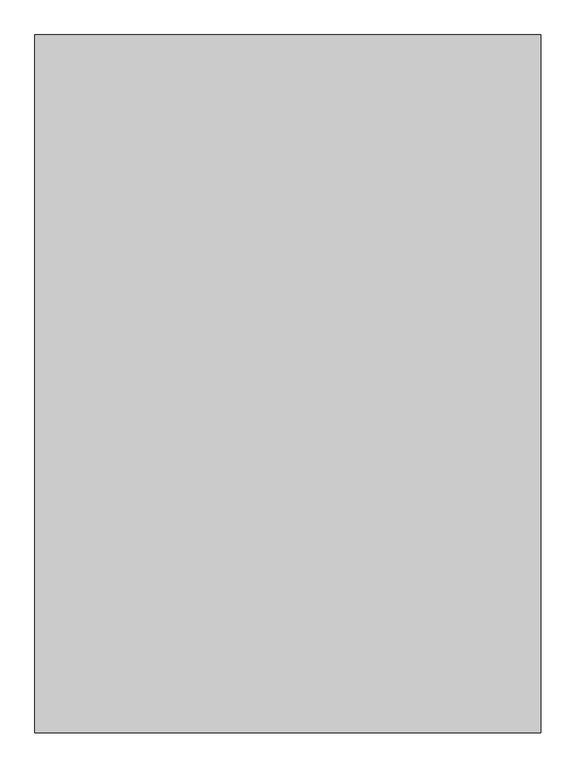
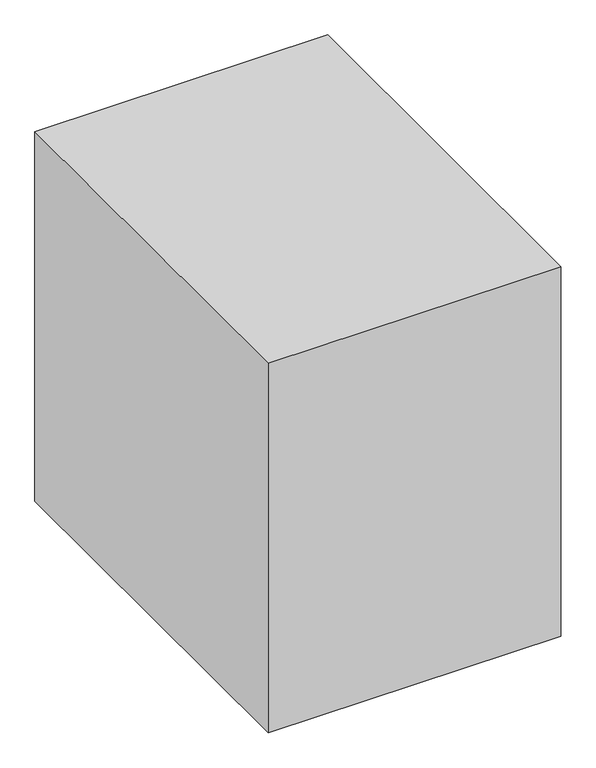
"""IFC4 building model written with IfcOpenShell, lengths in millimetres: unitary equipment geometry, AIC_Boiler_Nesta_FS_120-250 : Nesta 200 FS."""

from ifc_helpers import new_model, si_unit, point, frame, frame_2d, origin, origin_with_axes, place, context, project, spatial, polyline, circle_curve, trimmed, segment, composite_curve, outline, extrude, source, transform, mapped, element, save
from ifc_brep_helpers import plane_surface, cylinder_surface, advanced_brep


def unitary_equipment_072e29ba(model_context):
    return source(origin(), model_context, "Body", "SolidModel", [
        extrude(outline(composite_curve([segment(trimmed(circle_curve(frame_2d((600.0, 284.0)), 11.6), [point((600.0, 295.6))], [point((600.0, 272.4))], False, "CARTESIAN"), True, "CONTINUOUS"), segment(trimmed(circle_curve(frame_2d((600.0, 284.0)), 11.6), [point((600.0, 272.4))], [point((600.0, 295.6))], False, "CARTESIAN"), True, "CONTINUOUS")], self_intersect=False)), frame((0.0, 315.5, 0.0), z_axis=(0.0, 1.0, 0.0), x_axis=(0.0, 0.0, 1.0)), (0.0, 0.0, 1.0), 10.0),
        extrude(outline(composite_curve([segment(trimmed(circle_curve(frame_2d((-10.0, 432.5)), 90.0), [point((-100.0, 432.5))], [point((80.0, 432.5))], False, "CARTESIAN"), True, "CONTINUOUS"), segment(trimmed(circle_curve(frame_2d((-10.0, 432.5)), 90.0), [point((80.0, 432.5))], [point((-100.0, 432.5))], False, "CARTESIAN"), True, "CONTINUOUS")], self_intersect=False)), frame((0.0, 0.0, 302.0), z_axis=(0.0, 0.0, 1.0), x_axis=(1.0, 0.0, 0.0)), (0.0, 0.0, 1.0), 98.0),
        extrude(outline(composite_curve([segment(polyline([(-100.0, 315.5), (-100.0, 432.5)]), True, "CONTINUOUS"), segment(trimmed(circle_curve(frame_2d((-10.0, 432.5)), 90.0), [point((-100.0, 432.5))], [point((80.0, 432.5))], False, "CARTESIAN"), True, "CONTINUOUS"), segment(polyline([(80.0, 432.5), (80.0, 315.5), (-100.0, 315.5)]), True, "CONTINUOUS")], self_intersect=False)), frame((0.0, 0.0, 232.0), z_axis=(0.0, 0.0, 1.0), x_axis=(1.0, 0.0, 0.0)), (0.0, 0.0, 1.0), 70.0),
        extrude(outline(composite_curve([segment(trimmed(circle_curve(frame_2d((141.0, 196.0)), 12.5), [point((141.0, 208.5))], [point((141.0, 183.5))], False, "CARTESIAN"), True, "CONTINUOUS"), segment(trimmed(circle_curve(frame_2d((141.0, 196.0)), 12.5), [point((141.0, 183.5))], [point((141.0, 208.5))], False, "CARTESIAN"), True, "CONTINUOUS")], self_intersect=False)), frame((0.0, 315.5, 0.0), z_axis=(0.0, 1.0, 0.0), x_axis=(0.0, 0.0, 1.0)), (0.0, 0.0, 1.0), 13.0),
        extrude(outline(composite_curve([segment(trimmed(circle_curve(frame_2d((361.0, 173.0)), 38.05), [point((361.0, 211.05))], [point((361.0, 134.95))], False, "CARTESIAN"), True, "CONTINUOUS"), segment(trimmed(circle_curve(frame_2d((361.0, 173.0)), 38.05), [point((361.0, 134.95))], [point((361.0, 211.05))], False, "CARTESIAN"), True, "CONTINUOUS")], self_intersect=False)), frame((0.0, 315.5, 0.0), z_axis=(0.0, 1.0, 0.0), x_axis=(0.0, 0.0, 1.0)), (0.0, 0.0, 1.0), 122.0),
        extrude(outline(composite_curve([segment(trimmed(circle_curve(frame_2d((1098.0, -210.0)), 38.05), [point((1098.0, -171.95))], [point((1098.0, -248.05))], False, "CARTESIAN"), True, "CONTINUOUS"), segment(trimmed(circle_curve(frame_2d((1098.0, -210.0)), 38.05), [point((1098.0, -248.05))], [point((1098.0, -171.95))], False, "CARTESIAN"), True, "CONTINUOUS")], self_intersect=False)), frame((0.0, 315.5, 0.0), z_axis=(0.0, 1.0, 0.0), x_axis=(0.0, 0.0, 1.0)), (0.0, 0.0, 1.0), 122.0),
        extrude(outline(composite_curve([segment(trimmed(circle_curve(frame_2d((1308.9643556, -155.193117)), 16.85), [point((1308.9643556, -138.343117))], [point((1308.9643556, -172.043117))], False, "CARTESIAN"), True, "CONTINUOUS"), segment(trimmed(circle_curve(frame_2d((1308.9643556, -155.193117)), 16.85), [point((1308.9643556, -172.043117))], [point((1308.9643556, -138.343117))], False, "CARTESIAN"), True, "CONTINUOUS")], self_intersect=False)), frame((0.0, 315.5, 0.0), z_axis=(0.0, 1.0, 0.0), x_axis=(0.0, 0.0, 1.0)), (0.0, 0.0, 1.0), 89.0),
        extrude(outline(composite_curve([segment(trimmed(circle_curve(frame_2d((1324.0, 157.0)), 62.5), [point((1324.0, 219.5))], [point((1324.0, 94.5))], False, "CARTESIAN"), True, "CONTINUOUS"), segment(trimmed(circle_curve(frame_2d((1324.0, 157.0)), 62.5), [point((1324.0, 94.5))], [point((1324.0, 219.5))], False, "CARTESIAN"), True, "CONTINUOUS")], self_intersect=False)), frame((0.0, 315.5, 0.0), z_axis=(0.0, 1.0, 0.0), x_axis=(0.0, 0.0, 1.0)), (0.0, 0.0, 1.0), 40.0),
        extrude(outline(polyline([(-0.574259, 15.3863839), (16.0151184, 21.4244235), (16.0151184, -21.4244235), (-0.574259, -15.3863839), (-0.574259, 15.3863839)])), frame((0.0, -239.0, 0.0), z_axis=(0.0, 1.0, 0.0), x_axis=(0.0, 0.0, 1.0)), (0.0, 0.0, 1.0), 478.0),
        extrude(outline(polyline([(-280.0, 239.0), (-280.0, -239.0), (-311.0, -239.0), (-311.0, 239.0), (-280.0, 239.0)])), frame((0.0, 0.0, 3.0), z_axis=(0.0, 0.0, 1.0), x_axis=(1.0, 0.0, 0.0)), (0.0, 0.0, 1.0), 13.0),
        extrude(outline(polyline([(280.0, 239.0), (311.0, 239.0), (311.0, -239.0), (280.0, -239.0), (280.0, 239.0)])), frame((0.0, 0.0, 3.0), z_axis=(0.0, 0.0, 1.0), x_axis=(1.0, 0.0, 0.0)), (0.0, 0.0, 1.0), 13.0),
        extrude(outline(polyline([(-280.0, 280.0), (-280.0, -288.758383), (-311.0, -288.758383), (-311.0, 280.0), (-280.0, 280.0)])), origin_with_axes(), (0.0, 0.0, 1.0), 3.0),
        extrude(outline(polyline([(280.0, 280.0), (311.0, 280.0), (311.0, -288.758383), (280.0, -288.758383), (280.0, 280.0)])), origin_with_axes(), (0.0, 0.0, 1.0), 3.0),
        extrude(outline(composite_curve([segment(trimmed(circle_curve(frame_2d((1248.0, 0.0)), 15.0), [point((1248.0, -15.0))], [point((1248.0, 15.0))], False, "CARTESIAN"), True, "CONTINUOUS"), segment(trimmed(circle_curve(frame_2d((1248.0, 0.0)), 15.0), [point((1248.0, 15.0))], [point((1248.0, -15.0))], False, "CARTESIAN"), True, "CONTINUOUS")], self_intersect=False)), frame((0.0, -318.0, 0.0), z_axis=(0.0, 1.0, 0.0), x_axis=(0.0, 0.0, 1.0)), (0.0, 0.0, 1.0), 2.5),
        advanced_brep(
        [(-324.0, 290.5, 1524.0), (-324.0, -286.5, 1524.0), (324.0, -286.5, 1524.0), (324.0, 290.5, 1524.0), (324.0, 286.5, 16.0), (324.0, -286.5, 16.0), (-324.0, -286.5, 16.0), (-324.0, 286.5, 16.0), (-324.0, 315.5, 1495.2771868), (-324.0, 315.5, 1255.0), (-324.0, -315.5, 1255.0), (-324.0, -315.5, 1495.0), (-324.0, -315.5, 45.0), (-324.0, -315.5, 153.0), (-324.0, -310.0, 153.0), (-324.0, -310.0, 158.0), (-324.0, -315.5, 158.0), (-324.0, -315.5, 1250.0), (-324.0, 315.5, 1250.0), (-324.0, 315.5, 45.0), (324.0, -315.5, 45.0), (324.0, -315.5, 153.0), (324.0, -315.5, 1495.0), (-77.0, -315.5, 1255.0), (-77.0, -315.5, 1330.0), (77.0, -315.5, 1330.0), (77.0, -315.5, 1255.0), (324.0, -315.5, 1255.0), (-77.0, -315.5, 1250.0), (324.0, -315.5, 158.0), (324.0, -315.5, 1250.0), (77.0, -315.5, 1250.0), (77.0, -315.5, 1221.0), (-77.0, -315.5, 1221.0), (70.0, -315.5, 1229.0), (70.0, -315.5, 1323.0), (-68.2140255, -315.5, 1323.0), (-68.2140255, -315.5, 1229.0), (-30.0, -315.5, 1312.0), (30.0, -315.5, 1312.0), (30.0, -315.5, 1271.0), (-30.0, -315.5, 1271.0), (324.0, 315.5, 1255.0), (324.0, 315.5, 1495.2771868), (324.0, 315.5, 45.0), (324.0, 315.5, 1250.0), (324.0, -310.0, 158.0), (324.0, -310.0, 153.0), (-319.0, 315.5, 1250.0), (-319.0, 315.5, 1255.0), (319.0, 315.5, 1255.0), (319.0, 315.5, 1250.0), (-77.0, -310.0, 1255.0), (-319.0, -310.0, 1255.0), (-319.0, -310.0, 1250.0), (-77.0, -310.0, 1250.0), (319.0, -310.0, 1255.0), (77.0, -310.0, 1255.0), (319.0, -310.0, 1250.0), (77.0, -310.0, 1250.0), (30.0, -312.454303, 1312.0), (-30.0, -312.454303, 1312.0), (-30.0, -312.454303, 1271.0), (30.0, -312.454303, 1271.0), (77.0, -307.0, 1330.0), (-77.0, -307.0, 1330.0), (-77.0, -307.0, 1221.0), (77.0, -307.0, 1221.0), (70.0, -307.0, 1323.0), (70.0, -307.0, 1229.0), (-68.2140255, -307.0, 1229.0), (-68.2140255, -307.0, 1323.0)],
        [
            (0, 1),
            (1, 2),
            (2, 3),
            (3, 0),
            (4, 5),
            (5, 6),
            (6, 7),
            (7, 4),
            (0, 8, circle_curve(frame((-324.0, 286.5, 1495.2771868), z_axis=(-1.0, 0.0, 0.0), x_axis=(0.0, 1.0, 0.0)), 29.0)),
            (8, 9),
            (9, 10),
            (10, 11),
            (11, 1, circle_curve(frame((-324.0, -286.5, 1495.0), z_axis=(-1.0, 0.0, 0.0), x_axis=(0.0, 1.0, 0.0)), 29.0)),
            (6, 12, circle_curve(frame((-324.0, -286.5, 45.0), z_axis=(-1.0, 0.0, 0.0), x_axis=(0.0, 1.0, 0.0)), 29.0)),
            (12, 13),
            (13, 14),
            (14, 15),
            (15, 16),
            (16, 17),
            (17, 18),
            (18, 19),
            (19, 7, circle_curve(frame((-324.0, 286.5, 45.0), z_axis=(-1.0, 0.0, 0.0), x_axis=(0.0, 1.0, 0.0)), 29.0)),
            (12, 20),
            (20, 21),
            (21, 13),
            (22, 11),
            (10, 23),
            (23, 24),
            (24, 25),
            (25, 26),
            (26, 27),
            (27, 22),
            (28, 17),
            (16, 29),
            (29, 30),
            (30, 31),
            (31, 32),
            (32, 33),
            (33, 28),
            (34, 35),
            (35, 36),
            (36, 37),
            (37, 34),
            (38, 39),
            (39, 40),
            (40, 41),
            (41, 38),
            (2, 22, circle_curve(frame((324.0, -286.5, 1495.0), z_axis=(1.0, 0.0, 0.0), x_axis=(0.0, 1.0, 0.0)), 29.0)),
            (27, 42),
            (42, 43),
            (43, 3, circle_curve(frame((324.0, 286.5, 1495.2771868), z_axis=(1.0, 0.0, 0.0), x_axis=(0.0, 1.0, 0.0)), 29.0)),
            (4, 44, circle_curve(frame((324.0, 286.5, 45.0), z_axis=(1.0, 0.0, 0.0), x_axis=(0.0, 1.0, 0.0)), 29.0)),
            (44, 45),
            (45, 30),
            (29, 46),
            (46, 47),
            (47, 21),
            (20, 5, circle_curve(frame((324.0, -286.5, 45.0), z_axis=(1.0, 0.0, 0.0), x_axis=(0.0, 1.0, 0.0)), 29.0)),
            (44, 19),
            (18, 48),
            (48, 49),
            (49, 9),
            (8, 43),
            (42, 50),
            (50, 51),
            (51, 45),
            (52, 53),
            (53, 54),
            (54, 55),
            (55, 52),
            (49, 53),
            (52, 23),
            (56, 50),
            (26, 57),
            (57, 56),
            (28, 55),
            (54, 48),
            (51, 58),
            (58, 59),
            (59, 31),
            (56, 58),
            (46, 15),
            (14, 47),
            (60, 61),
            (61, 62),
            (62, 63),
            (63, 60),
            (60, 39),
            (38, 61),
            (41, 62),
            (40, 63),
            (64, 65),
            (65, 66),
            (66, 67),
            (67, 64),
            (68, 69),
            (69, 70),
            (70, 71),
            (71, 68),
            (64, 25),
            (24, 65),
            (33, 66),
            (32, 67),
            (59, 57),
            (68, 35),
            (34, 69),
            (37, 70),
            (36, 71),
        ],
        [
            plane_surface(frame((-324.0, 315.5, 1524.0), z_axis=(0.0, 0.0, 1.0), x_axis=(0.0, -1.0, 0.0))),
            plane_surface(frame((-324.0, 315.5, 16.0), z_axis=(0.0, 0.0, -1.0), x_axis=(0.0, 1.0, 0.0))),
            plane_surface(frame((-324.0, 315.5, 1524.0), z_axis=(-1.0, 0.0, 0.0), x_axis=(0.0, 0.0, -1.0))),
            plane_surface(frame((-324.0, -315.5, 1524.0), z_axis=(0.0, -1.0, 0.0), x_axis=(0.0, 0.0, -1.0))),
            plane_surface(frame((324.0, -315.5, 1524.0), z_axis=(1.0, 0.0, 0.0), x_axis=(0.0, 0.0, -1.0))),
            plane_surface(frame((324.0, 315.5, 1524.0), z_axis=(0.0, 1.0, 0.0), x_axis=(0.0, 0.0, -1.0))),
            cylinder_surface(frame((-324.0, -286.5, 45.0), z_axis=(-1.0, 0.0, 0.0), x_axis=(0.0, 1.0, 0.0)), 29.0),
            cylinder_surface(frame((0.0, 286.5, 45.0), z_axis=(-1.0, 0.0, 0.0), x_axis=(0.0, 1.0, 0.0)), 29.0),
            cylinder_surface(frame((0.0, -286.5, 1495.0), z_axis=(-1.0, 0.0, 0.0), x_axis=(0.0, 1.0, 0.0)), 29.0),
            cylinder_surface(frame((0.0, 286.5, 1495.2771868), z_axis=(-1.0, 0.0, 0.0), x_axis=(0.0, 1.0, 0.0)), 29.0),
            plane_surface(frame((-324.0, -310.0, 1255.0), z_axis=(0.0, -1.0, 0.0), x_axis=(1.0, 0.0, 0.0))),
            plane_surface(frame((-77.0, -315.5, 1255.0), z_axis=(0.0, 0.0, -1.0), x_axis=(0.0, 1.0, 0.0))),
            plane_surface(frame((-324.0, -315.5, 1250.0), z_axis=(0.0, 0.0, 1.0), x_axis=(0.0, 1.0, 0.0))),
            plane_surface(frame((-319.0, -310.0, 1255.0), z_axis=(-1.0, 0.0, 0.0), x_axis=(0.0, 0.0, -1.0))),
            plane_surface(frame((319.0, 315.5, 1255.0), z_axis=(1.0, 0.0, 0.0), x_axis=(0.0, 0.0, -1.0))),
            plane_surface(frame((-324.0, -310.0, 158.0), z_axis=(0.0, -1.0, 0.0), x_axis=(1.0, 0.0, 0.0))),
            plane_surface(frame((324.0, -315.5, 158.0), z_axis=(0.0, 0.0, -1.0), x_axis=(0.0, 1.0, 0.0))),
            plane_surface(frame((-324.0, -315.5, 153.0), z_axis=(0.0, 0.0, 1.0), x_axis=(0.0, 1.0, 0.0))),
            plane_surface(frame((-30.0, -312.454303, 1312.0), z_axis=(0.0, -1.0, 0.0), x_axis=(1.0, 0.0, 0.0))),
            plane_surface(frame((30.0, -315.5, 1312.0), z_axis=(0.0, 0.0, -1.0), x_axis=(0.0, 1.0, 0.0))),
            plane_surface(frame((-30.0, -315.5, 1312.0), z_axis=(1.0, 0.0, 0.0), x_axis=(0.0, 1.0, 0.0))),
            plane_surface(frame((-30.0, -315.5, 1271.0), z_axis=(0.0, 0.0, 1.0), x_axis=(0.0, 1.0, 0.0))),
            plane_surface(frame((30.0, -315.5, 1271.0), z_axis=(-1.0, 0.0, 0.0), x_axis=(0.0, 1.0, 0.0))),
            plane_surface(frame((-77.0, -307.0, 1330.0), z_axis=(0.0, -1.0, 0.0), x_axis=(1.0, 0.0, 0.0))),
            plane_surface(frame((77.0, -320.8955874, 1330.0), z_axis=(0.0, 0.0, -1.0), x_axis=(0.0, 1.0, 0.0))),
            plane_surface(frame((-77.0, -320.8955874, 1330.0), z_axis=(1.0, 0.0, 0.0), x_axis=(0.0, 1.0, 0.0))),
            plane_surface(frame((-77.0, -320.8955874, 1221.0), z_axis=(0.0, 0.0, 1.0), x_axis=(0.0, 1.0, 0.0))),
            plane_surface(frame((77.0, -320.8955874, 1221.0), z_axis=(-1.0, 0.0, 0.0), x_axis=(0.0, 1.0, 0.0))),
            plane_surface(frame((70.0, -320.8955874, 1323.0), z_axis=(1.0, 0.0, 0.0), x_axis=(0.0, 1.0, 0.0))),
            plane_surface(frame((70.0, -320.8955874, 1229.0), z_axis=(0.0, 0.0, -1.0), x_axis=(0.0, 1.0, 0.0))),
            plane_surface(frame((-68.2140255, -320.8955874, 1229.0), z_axis=(-1.0, 0.0, 0.0), x_axis=(0.0, 1.0, 0.0))),
            plane_surface(frame((-68.2140255, -320.8955874, 1323.0), z_axis=(0.0, 0.0, 1.0), x_axis=(0.0, 1.0, 0.0))),
            plane_surface(frame((77.0, -310.0, 1255.0), z_axis=(0.0, -1.0, 0.0), x_axis=(0.0, 0.0, 1.0))),
        ],
        [
            (0, [[1, 2, 3, 4]]),
            (1, [[5, 6, 7, 8]]),
            (2, [[-1, 9, 10, 11, 12, 13]]),
            (2, [[-7, 14, 15, 16, 17, 18, 19, 20, 21, 22]]),
            (3, [[23, 24, 25, -15]]),
            (3, [[26, -12, 27, 28, 29, 30, 31, 32]]),
            (3, [[33, -19, 34, 35, 36, 37, 38, 39]]),
            (3, [[40, 41, 42, 43], [44, 45, 46, 47]]),
            (4, [[-3, 48, -32, 49, 50, 51]]),
            (4, [[-5, 52, 53, 54, -35, 55, 56, 57, -24, 58]]),
            (5, [[59, -21, 60, 61, 62, -10, 63, -50, 64, 65, 66, -53]]),
            (6, [[-6, -58, -23, -14]]),
            (7, [[-8, -22, -59, -52]]),
            (8, [[-2, -13, -26, -48]]),
            (9, [[-4, -51, -63, -9]]),
            (10, [[67, 68, 69, 70]]),
            (11, [[-27, -11, -62, 71, -67, 72]]),
            (11, [[73, -64, -49, -31, 74, 75]]),
            (12, [[-33, 76, -69, 77, -60, -20]]),
            (12, [[78, 79, 80, -36, -54, -66]]),
            (13, [[-71, -61, -77, -68]]),
            (14, [[-73, 81, -78, -65]]),
            (15, [[82, -17, 83, -56]]),
            (16, [[-82, -55, -34, -18]]),
            (17, [[-83, -16, -25, -57]]),
            (18, [[84, 85, 86, 87]]),
            (19, [[-84, 88, -44, 89]]),
            (20, [[-85, -89, -47, 90]]),
            (21, [[-86, -90, -46, 91]]),
            (22, [[-87, -91, -45, -88]]),
            (23, [[92, 93, 94, 95], [96, 97, 98, 99]]),
            (24, [[-92, 100, -29, 101]]),
            (25, [[-93, -101, -28, -72, -70, -76, -39, 102]]),
            (26, [[-94, -102, -38, 103]]),
            (27, [[-95, -103, -37, -80, 104, -74, -30, -100]]),
            (28, [[-96, 105, -40, 106]]),
            (29, [[-97, -106, -43, 107]]),
            (30, [[-98, -107, -42, 108]]),
            (31, [[-99, -108, -41, -105]]),
            (32, [[-75, -104, -79, -81]]),
        ],
    ),
        extrude(outline(polyline([(824.0, -1315.5), (-824.0, -1315.5), (-824.0, 958.7097644), (824.0, 958.7097644), (824.0, -1315.5)])), origin_with_axes(), (0.0, 0.0, 1.0), 2200.7122707),
    ])


if __name__ == "__main__":
    model = new_model("IFC4")
    model_context = context("Model", 3, world=origin())
    ifc_project = project(units=[si_unit("LENGTHUNIT", "METRE", prefix="MILLI")], contexts=[model_context])
    site = spatial("IfcSite", under=ifc_project)
    building = spatial("IfcBuilding", under=site)
    placement = place(None, origin())
    unitary_equipment_shape = unitary_equipment_072e29ba(model_context)
    element("IfcUnitaryEquipment", 1, ObjectType="AIC_Boiler_Nesta_FS_120-250 : Nesta 200 FS", at=placement, inside=building, context=model_context, shape_type="MappedRepresentation", body=[
        mapped(unitary_equipment_shape, transform((0.0, 0.0, 0.0), x_axis=(1.0, 0.0, 0.0), y_axis=(0.0, 1.0, 0.0), z_axis=(0.0, 0.0, 1.0))),
    ])
    save(model, "model.ifc")
